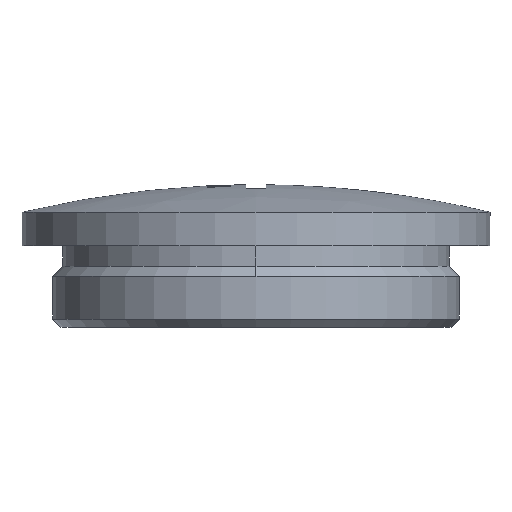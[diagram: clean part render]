
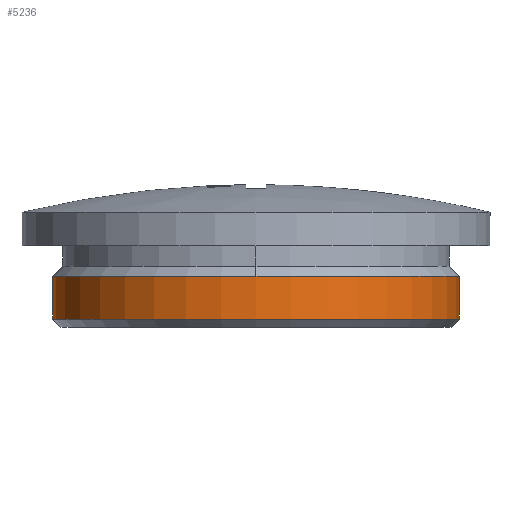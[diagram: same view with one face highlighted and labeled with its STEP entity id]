
A CAD part, left-side view. The second image highlights one B-rep face of the part: STEP entity #5236.
In plain terms, the highlighted cylindrical face has radius 20 mm (diameter 40 mm), a partial arc.
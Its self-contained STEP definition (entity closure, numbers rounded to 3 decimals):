
#2642 = DIRECTION ( 'NONE',  ( -1., 0., 0. ) ) ;
#2643 = DIRECTION ( 'NONE',  ( 0., 0., -1. ) ) ;
#2644 = AXIS2_PLACEMENT_3D ( 'NONE', #2650, #2643, #2642 ) ;
#2645 = CIRCLE ( 'NONE', #2644, 20. ) ;
#2646 = DIRECTION ( 'NONE',  ( 0., 1., 0. ) ) ;
#2647 = DIRECTION ( 'NONE',  ( 0., 0., -1. ) ) ;
#2648 = CARTESIAN_POINT ( 'NONE',  ( 0., 0., 0. ) ) ;
#2649 = AXIS2_PLACEMENT_3D ( 'NONE', #2648, #2647, #2646 ) ;
#2650 = CARTESIAN_POINT ( 'NONE',  ( 0., 0., 5. ) ) ;
#2651 = CYLINDRICAL_SURFACE ( 'NONE', #2649, 20. ) ;
#2652 = FACE_OUTER_BOUND ( 'NONE', #5237, .T. ) ;
#2653 = DIRECTION ( 'NONE',  ( 0., 1., 0. ) ) ;
#2654 = DIRECTION ( 'NONE',  ( 0., 0., -1. ) ) ;
#2655 = CARTESIAN_POINT ( 'NONE',  ( 0., 0., 0.8 ) ) ;
#2656 = AXIS2_PLACEMENT_3D ( 'NONE', #2655, #2654, #2653 ) ;
#2657 = CIRCLE ( 'NONE', #2656, 20. ) ;
#2810 = CARTESIAN_POINT ( 'NONE',  ( 0., 20., 0.8 ) ) ;
#2941 = CARTESIAN_POINT ( 'NONE',  ( -20., 0., 5. ) ) ;
#2942 = DIRECTION ( 'NONE',  ( -1., 0., 0. ) ) ;
#2943 = DIRECTION ( 'NONE',  ( 0., 0., -1. ) ) ;
#2944 = CARTESIAN_POINT ( 'NONE',  ( 0., 0., 5. ) ) ;
#2945 = AXIS2_PLACEMENT_3D ( 'NONE', #2944, #2943, #2942 ) ;
#2946 = CIRCLE ( 'NONE', #2945, 20. ) ;
#2947 = CARTESIAN_POINT ( 'NONE',  ( 0., 20., 5. ) ) ;
#2986 = DIRECTION ( 'NONE',  ( 0., 0., -1. ) ) ;
#2987 = VECTOR ( 'NONE', #2986, 1000. ) ;
#2988 = CARTESIAN_POINT ( 'NONE',  ( 0., -20., 0. ) ) ;
#2989 = LINE ( 'NONE', #2988, #2987 ) ;
#2990 = CARTESIAN_POINT ( 'NONE',  ( 0., -20., 5. ) ) ;
#3006 = CARTESIAN_POINT ( 'NONE',  ( 0., -20., 0.8 ) ) ;
#3045 = DIRECTION ( 'NONE',  ( 0., 0., -1. ) ) ;
#3046 = VECTOR ( 'NONE', #3045, 1000. ) ;
#3047 = CARTESIAN_POINT ( 'NONE',  ( 0., 20., 0. ) ) ;
#3048 = LINE ( 'NONE', #3047, #3046 ) ;
#5231 = ORIENTED_EDGE ( 'NONE', *, *, #5408, .F. ) ;
#5233 = ORIENTED_EDGE ( 'NONE', *, *, #5234, .F. ) ;
#5234 = EDGE_CURVE ( 'NONE', #5398, #5313, #2657, .T. ) ;
#5236 = ADVANCED_FACE ( 'NONE', ( #2652 ), #2651, .T. ) ;
#5237 = EDGE_LOOP ( 'NONE', ( #5231, #5241, #5243, #5239, #5233 ) ) ;
#5239 = ORIENTED_EDGE ( 'NONE', *, *, #5411, .T. ) ;
#5241 = ORIENTED_EDGE ( 'NONE', *, *, #5242, .T. ) ;
#5242 = EDGE_CURVE ( 'NONE', #5406, #5376, #2645, .T. ) ;
#5243 = ORIENTED_EDGE ( 'NONE', *, *, #5375, .T. ) ;
#5313 = VERTEX_POINT ( 'NONE', #2810 ) ;
#5373 = VERTEX_POINT ( 'NONE', #2947 ) ;
#5375 = EDGE_CURVE ( 'NONE', #5376, #5373, #2946, .T. ) ;
#5376 = VERTEX_POINT ( 'NONE', #2941 ) ;
#5398 = VERTEX_POINT ( 'NONE', #3006 ) ;
#5406 = VERTEX_POINT ( 'NONE', #2990 ) ;
#5408 = EDGE_CURVE ( 'NONE', #5406, #5398, #2989, .T. ) ;
#5411 = EDGE_CURVE ( 'NONE', #5373, #5313, #3048, .T. ) ;
